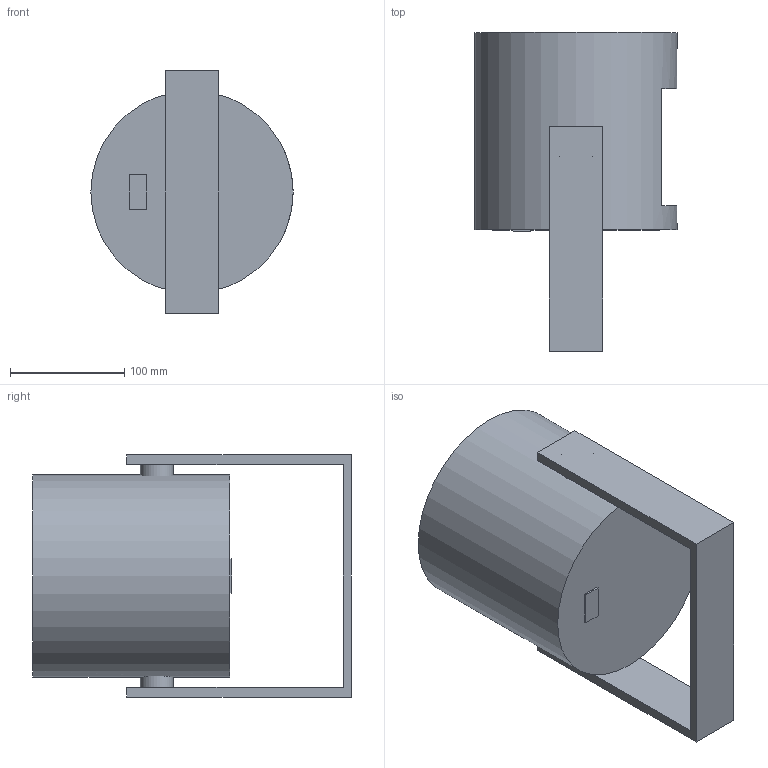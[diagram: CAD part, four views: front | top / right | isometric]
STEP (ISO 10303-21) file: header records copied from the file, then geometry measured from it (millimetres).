
FILE_DESCRIPTION(/* description */ (''),/* implementation_level */ '2;1');
FILE_NAME(/* name */ 'Well Pod 3_0.step',/* time_stamp */ '2025-04-25T14:09:04-04:00',/* author */ (''),/* organization */ (''),/* preprocessor_version */ 'ST-DEVELOPER v20.1',/* originating_system */ 'Autodesk Translation Framework v14.4.0.0',/* authorisation */ '');
FILE_SCHEMA (('AUTOMOTIVE_DESIGN { 1 0 10303 214 3 1 1 }'));
Length unit declared in the file: millimetre
Products named in the file (3): 0-CH-W19QB-IP-ALL_ASM; body_0; Braket_0
Assembly tree (2 placements, depth 2):
  0-CH-W19QB-IP-ALL_ASM
    body_0
    Braket_0
Bounding box: 177.28 x 279.5 x 212.4 mm (x, y, z)
Volume: 4241498.7 mm3; surface area: 219555.1 mm2
Topology: 2 solids, 2 shells, 33 faces, 64 edges, 43 vertices
Faces by surface type: plane 26, cylinder 7
Full cylindrical faces by diameter (mm): 28.929 x5, 148.692 x1, 177.283 x1
Entity records: 956 total; most frequent: CARTESIAN_POINT 179, DIRECTION 153, ORIENTED_EDGE 128, EDGE_CURVE 64, AXIS2_PLACEMENT_3D 53, LINE 47, VECTOR 47, VERTEX_POINT 43
